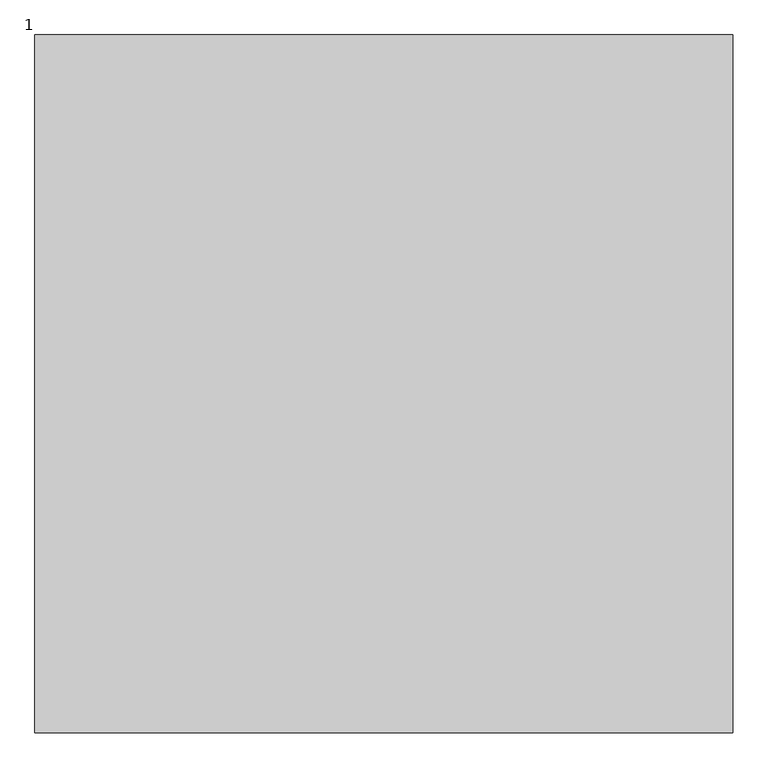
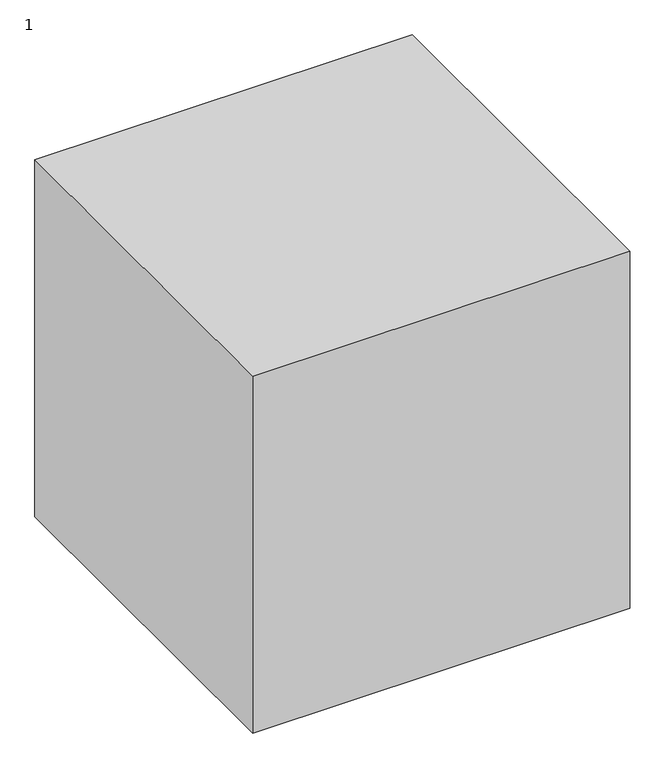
"""IFC4 building model written with IfcOpenShell, lengths in millimetres: proxy geometry, 12221111121 : 1."""

import ifcopenshell
import ifcopenshell.guid

model = None  # the IFC model being written
_history = None  # IfcOwnerHistory: only IFC2X3 demands one
_inside = {}  # id of a spatial element -> (the spatial element, [elements in it])
_under = {}  # id of a project, library or spatial element -> (it, [spatial elements below it])
_declared = {}  # id of a project -> (the project, [libraries it declares])
_typed = {}  # id of a type object -> (the type object, [elements of that type])
_made_of = {}  # id of a material, layer set ... -> (it, [elements and type objects made of it])


def new_model(schema):
    """Start an empty IFC model of exactly this schema.

    Asked for "IFC4X3", IfcOpenShell would pick the latest addendum, in which some entities
    have other attributes; the version numbers below select the first issue.
    IFC2X3 requires an IfcOwnerHistory on every rooted entity: one is made here for all.
    """
    global model, _history
    if schema == "IFC4X3":
        model = ifcopenshell.file(schema_version=(4, 3, 0, 0))
    else:
        model = ifcopenshell.file(schema=schema)
    _inside.clear()
    _under.clear()
    _declared.clear()
    _typed.clear()
    _made_of.clear()
    _history = None
    if model.schema == "IFC2X3":
        org = make("IfcOrganization", Name="unknown")
        user = make(
            "IfcPersonAndOrganization",
            ThePerson=make("IfcPerson", FamilyName="unknown"),
            TheOrganization=org,
        )
        app = make(
            "IfcApplication",
            ApplicationDeveloper=org,
            Version="unknown",
            ApplicationFullName="unknown",
            ApplicationIdentifier="unknown",
        )
        _history = make(
            "IfcOwnerHistory",
            OwningUser=user,
            OwningApplication=app,
            ChangeAction="ADDED",
            CreationDate=0,
        )
    return model


def make(cls, **values):
    """One entity of the class cls with the attributes given. An attribute that is None is left unset."""
    return model.create_entity(
        cls, **{name: value for name, value in values.items() if value is not None}
    )


def rooted(cls, **values):
    """An entity with a GlobalId (a new one), such as an element, a storey or a relation."""
    return make(cls, GlobalId=ifcopenshell.guid.new(), OwnerHistory=_history, **values)


def si_unit(unit_type, name, prefix=None):
    """IfcSIUnit, for example si_unit("LENGTHUNIT", "METRE", prefix="MILLI")."""
    return make("IfcSIUnit", UnitType=unit_type, Prefix=prefix, Name=name)


def assignment(units):
    """IfcUnitAssignment: the units of a project."""
    return None if units is None else make("IfcUnitAssignment", Units=units)


def point(xyz):
    """IfcCartesianPoint."""
    return None if xyz is None else make("IfcCartesianPoint", Coordinates=xyz)


def direction(xyz):
    """IfcDirection."""
    return None if xyz is None else make("IfcDirection", DirectionRatios=xyz)


def frame(location, z_axis=None, x_axis=None):
    """IfcAxis2Placement3D, a coordinate frame: its origin and axes. An axis left out is left unset."""
    return make(
        "IfcAxis2Placement3D",
        Location=point(location),
        Axis=direction(z_axis),
        RefDirection=direction(x_axis),
    )


def origin():
    """The frame at (0, 0, 0) with its axes left unset."""
    return frame((0.0, 0.0, 0.0))


def origin_with_axes():
    """The frame at (0, 0, 0) with the z axis (0, 0, 1) and the x axis (1, 0, 0) written out."""
    return frame((0.0, 0.0, 0.0), z_axis=(0.0, 0.0, 1.0), x_axis=(1.0, 0.0, 0.0))


def place(relative_to, where):
    """IfcLocalPlacement: puts the frame where relative to a parent placement (None: the world)."""
    return make(
        "IfcLocalPlacement", PlacementRelTo=relative_to, RelativePlacement=where
    )


def context(
    kind, dimensions, precision=None, world=None, true_north=None, identifier=None
):
    """IfcGeometricRepresentationContext, for example the 3D "Model" context."""
    return make(
        "IfcGeometricRepresentationContext",
        ContextIdentifier=identifier,
        ContextType=kind,
        CoordinateSpaceDimension=dimensions,
        Precision=precision,
        WorldCoordinateSystem=world,
        TrueNorth=true_north,
    )


def project(units=None, contexts=None):
    """IfcProject with its units and contexts."""
    return rooted(
        "IfcProject",
        Name="project",
        RepresentationContexts=contexts,
        UnitsInContext=assignment(units),
    )


def spatial(cls, under=None, at=None, **own):
    """A site, building, storey or space (cls), placed at a placement, below another one or the project."""
    s = rooted(cls, ObjectPlacement=at, **own)
    if under is not None:
        _under.setdefault(under.id(), (under, []))[1].append(s)
    return s


def polyline(points):
    """IfcPolyline through the points."""
    return make("IfcPolyline", Points=[point(p) for p in points])


def outline(outer, holes=None, kind="AREA"):
    """IfcArbitraryClosedProfileDef: a profile drawn as a closed curve; with holes, ...WithVoids."""
    if holes is None:
        return make("IfcArbitraryClosedProfileDef", ProfileType=kind, OuterCurve=outer)
    return make(
        "IfcArbitraryProfileDefWithVoids",
        ProfileType=kind,
        OuterCurve=outer,
        InnerCurves=holes,
    )


def extrude(swept, where, along, depth):
    """IfcExtrudedAreaSolid: the profile swept, set in the frame where, extruded along a direction by depth."""
    return make(
        "IfcExtrudedAreaSolid",
        SweptArea=swept,
        Position=where,
        ExtrudedDirection=direction(along),
        Depth=depth,
    )


def shape(context_of_items, identifier, shape_type, items):
    """IfcShapeRepresentation: the items that make up one representation, for example the "Body"."""
    return make(
        "IfcShapeRepresentation",
        ContextOfItems=context_of_items,
        RepresentationIdentifier=identifier,
        RepresentationType=shape_type,
        Items=items,
    )


def source(mapping_origin, context_of_items, identifier, shape_type, items):
    """IfcRepresentationMap: a shape defined once, which mapped items show again and again."""
    return make(
        "IfcRepresentationMap",
        MappingOrigin=mapping_origin,
        MappedRepresentation=shape(context_of_items, identifier, shape_type, items),
    )


def transform(
    local_origin,
    x_axis=None,
    y_axis=None,
    z_axis=None,
    scale=None,
    scale2=None,
    scale3=None,
    uniform=True,
):
    """IfcCartesianTransformationOperator3D, or its non-uniform kind. x_axis, y_axis, z_axis: its Axis1, 2, 3."""
    if uniform:
        return make(
            "IfcCartesianTransformationOperator3D",
            Axis1=direction(x_axis),
            Axis2=direction(y_axis),
            LocalOrigin=point(local_origin),
            Scale=scale,
            Axis3=direction(z_axis),
        )
    return make(
        "IfcCartesianTransformationOperator3DnonUniform",
        Axis1=direction(x_axis),
        Axis2=direction(y_axis),
        LocalOrigin=point(local_origin),
        Scale=scale,
        Axis3=direction(z_axis),
        Scale2=scale2,
        Scale3=scale3,
    )


def mapped(mapping_source, mapping_target):
    """IfcMappedItem: shows the shape of a source again, moved by a transform."""
    return make(
        "IfcMappedItem", MappingSource=mapping_source, MappingTarget=mapping_target
    )


def made_of(thing, what):
    """Note that an element or type object is made of a material, layer set ...; save() writes the relation."""
    if what is not None:
        _made_of.setdefault(what.id(), (what, []))[1].append(thing)
    return thing


def element(
    cls,
    number,
    at=None,
    inside=None,
    cuts=None,
    type_object=None,
    material=None,
    context=None,
    identifier="Body",
    shape_type=None,
    held_by="IfcProductDefinitionShape",
    body=None,
    shapes=None,
    **own,
):
    """One element of the class cls, such as IfcWall. Its Tag is "e" and its number.

    at: its placement. inside: the storey or other place that contains it. cuts: it is an
    opening in that element (IfcRelVoidsElement). A single representation is given by context,
    identifier, shape_type and body (its items); several are given by shapes. held_by: the class
    of the entity that holds the representations. save() writes the other relations.
    """
    e = rooted(cls, Tag="e%d" % number, ObjectPlacement=at, **own)
    if body is not None:
        shapes = [shape(context, identifier, shape_type, body)]
    if shapes is not None:
        e.Representation = make(held_by, Representations=shapes)
    if inside is not None:
        _inside.setdefault(inside.id(), (inside, []))[1].append(e)
    if cuts is not None:
        rooted(
            "IfcRelVoidsElement", RelatingBuildingElement=cuts, RelatedOpeningElement=e
        )
    if type_object is not None:
        _typed.setdefault(type_object.id(), (type_object, []))[1].append(e)
    return made_of(e, material)


def aggregate(whole, parts):
    """IfcRelAggregates: a whole, such as a stair, and the parts it consists of."""
    return rooted("IfcRelAggregates", RelatingObject=whole, RelatedObjects=parts)


def save(model, path):
    """Write the relations noted so far, then the file.

    IfcRelAggregates (storeys below a building ...), IfcRelContainedInSpatialStructure (elements
    in a storey), IfcRelDefinesByType, IfcRelAssociatesMaterial and IfcRelDeclares: one each for
    every whole, place, type object, material and project.
    """
    for whole, parts in _under.values():
        aggregate(whole, parts)
    for where, things in _inside.values():
        rooted(
            "IfcRelContainedInSpatialStructure",
            RelatedElements=things,
            RelatingStructure=where,
        )
    for kind, things in _typed.values():
        rooted("IfcRelDefinesByType", RelatedObjects=things, RelatingType=kind)
    for what, things in _made_of.values():
        rooted("IfcRelAssociatesMaterial", RelatedObjects=things, RelatingMaterial=what)
    for by, libraries in _declared.values():
        rooted("IfcRelDeclares", RelatingContext=by, RelatedDefinitions=libraries)
    model.write(path)


def proxy_1_f5038394(model_context):
    return source(origin(), model_context, "Body", "SweptSolid", [
        extrude(outline(polyline([(15692.0243292, 3335.2294472), (15692.0243292, 2335.2294472), (14692.0243292, 2335.2294472), (14692.0243292, 3335.2294472), (15692.0243292, 3335.2294472)])), origin_with_axes(), (0.0, 0.0, 1.0), 1000.0),
    ])


if __name__ == "__main__":
    model = new_model("IFC4")
    model_context = context("Model", 3, world=origin())
    ifc_project = project(units=[si_unit("LENGTHUNIT", "METRE", prefix="MILLI")], contexts=[model_context])
    site = spatial("IfcSite", under=ifc_project)
    building = spatial("IfcBuilding", under=site)
    placement = place(None, origin())
    proxy_1_shape = proxy_1_f5038394(model_context)
    element("IfcBuildingElementProxy", 1, Name="12221111121 : 1", ObjectType="12221111121 : 1", at=placement, inside=building, context=model_context, shape_type="MappedRepresentation", body=[
        mapped(proxy_1_shape, transform((0.0, 0.0, 0.0), x_axis=(1.0, 0.0, 0.0), y_axis=(0.0, 1.0, 0.0), z_axis=(0.0, 0.0, 1.0))),
    ])
    save(model, "model.ifc")
